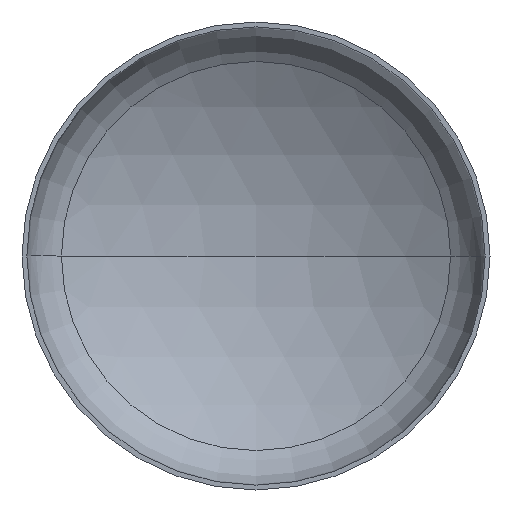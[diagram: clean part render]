
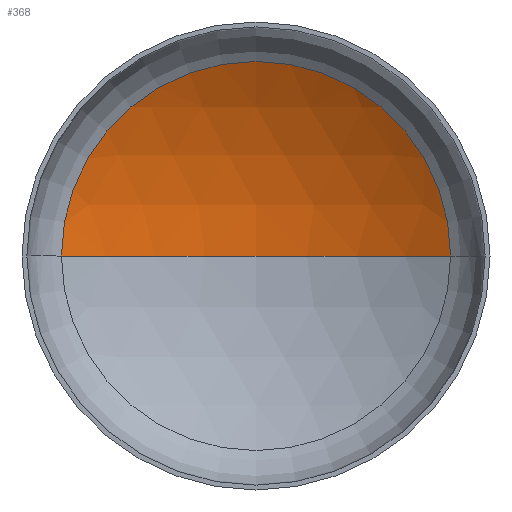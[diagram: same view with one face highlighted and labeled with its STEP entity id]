
A CAD part, front view. The second image highlights one B-rep face of the part: STEP entity #368.
In plain terms, the highlighted spherical face has radius 2080 mm.
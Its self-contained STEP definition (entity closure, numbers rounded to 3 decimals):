
#13 = EDGE_LOOP ( 'NONE', ( #86, #96, #51 ) ) ;
#37 = VERTEX_POINT ( 'NONE', #198 ) ;
#42 = VERTEX_POINT ( 'NONE', #201 ) ;
#51 = ORIENTED_EDGE ( 'NONE', *, *, #360, .T. ) ;
#62 = VERTEX_POINT ( 'NONE', #311 ) ;
#82 = DIRECTION ( 'NONE',  ( 0., 0., -1. ) ) ;
#86 = ORIENTED_EDGE ( 'NONE', *, *, #404, .F. ) ;
#91 = CARTESIAN_POINT ( 'NONE',  ( 0., -1350.364, 0. ) ) ;
#96 = ORIENTED_EDGE ( 'NONE', *, *, #388, .T. ) ;
#114 = DIRECTION ( 'NONE',  ( -1., 0., 0. ) ) ;
#122 = CARTESIAN_POINT ( 'NONE',  ( 0., -1350.364, 0. ) ) ;
#123 = DIRECTION ( 'NONE',  ( 0., 0., 1. ) ) ;
#198 = CARTESIAN_POINT ( 'NONE',  ( -1080.857, 426.753, 0. ) ) ;
#201 = CARTESIAN_POINT ( 'NONE',  ( 0., 729.636, 0. ) ) ;
#202 = DIRECTION ( 'NONE',  ( 1., 0., 0. ) ) ;
#204 = CARTESIAN_POINT ( 'NONE',  ( 0., -1350.364, 0. ) ) ;
#236 = DIRECTION ( 'NONE',  ( 0., -1., 0. ) ) ;
#251 = CIRCLE ( 'NONE', #373, 2080. ) ;
#258 = DIRECTION ( 'NONE',  ( -1., 0., 0. ) ) ;
#259 = CIRCLE ( 'NONE', #308, 1080.857 ) ;
#279 = DIRECTION ( 'NONE',  ( 0., 0., -1. ) ) ;
#308 = AXIS2_PLACEMENT_3D ( 'NONE', #386, #236, #410 ) ;
#311 = CARTESIAN_POINT ( 'NONE',  ( 1080.857, 426.753, 0. ) ) ;
#360 = EDGE_CURVE ( 'NONE', #62, #37, #259, .T. ) ;
#365 = AXIS2_PLACEMENT_3D ( 'NONE', #204, #82, #258 ) ;
#368 = ADVANCED_FACE ( 'NONE', ( #394 ), #389, .F. ) ;
#373 = AXIS2_PLACEMENT_3D ( 'NONE', #91, #279, #114 ) ;
#379 = CIRCLE ( 'NONE', #393, 2080. ) ;
#386 = CARTESIAN_POINT ( 'NONE',  ( 0., 426.753, 0. ) ) ;
#388 = EDGE_CURVE ( 'NONE', #42, #62, #251, .T. ) ;
#389 = SPHERICAL_SURFACE ( 'NONE', #365, 2080. ) ;
#393 = AXIS2_PLACEMENT_3D ( 'NONE', #122, #123, #202 ) ;
#394 = FACE_OUTER_BOUND ( 'NONE', #13, .T. ) ;
#404 = EDGE_CURVE ( 'NONE', #42, #37, #379, .T. ) ;
#410 = DIRECTION ( 'NONE',  ( 1., 0., 0. ) ) ;
